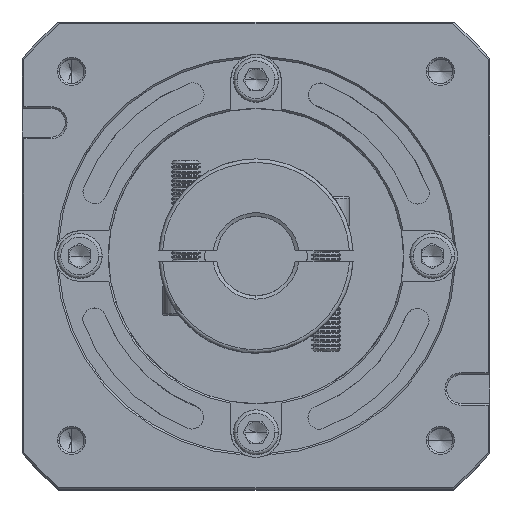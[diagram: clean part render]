
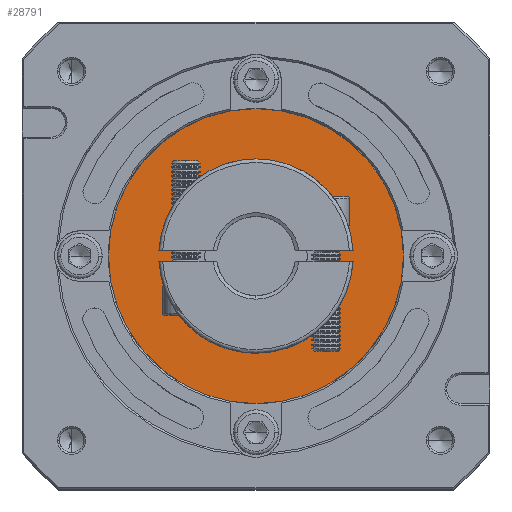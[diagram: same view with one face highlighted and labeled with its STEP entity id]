
A CAD part, top view. The second image highlights one B-rep face of the part: STEP entity #28791.
In plain terms, the highlighted planar face has unit normal (0, 0, 1).
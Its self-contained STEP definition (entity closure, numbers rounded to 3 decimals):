
#644 = CIRCLE ( 'NONE', #5246, 20. ) ;
#4586 = VERTEX_POINT ( 'NONE', #33831 ) ;
#5246 = AXIS2_PLACEMENT_3D ( 'NONE', #47899, #90704, #91464 ) ;
#9698 = ORIENTED_EDGE ( 'NONE', *, *, #65212, .T. ) ;
#11600 = DIRECTION ( 'NONE',  ( 0., 0., 1. ) ) ;
#12256 = VERTEX_POINT ( 'NONE', #68671 ) ;
#13747 = DIRECTION ( 'NONE',  ( 1., 0., 0. ) ) ;
#18558 = CARTESIAN_POINT ( 'NONE',  ( 57.277, 125.912, -40.932 ) ) ;
#23309 = ORIENTED_EDGE ( 'NONE', *, *, #29928, .T. ) ;
#27754 = DIRECTION ( 'NONE',  ( 1., 0., 0. ) ) ;
#28791 = ADVANCED_FACE ( 'NONE', ( #53707, #56436 ), #57829, .T. ) ;
#29928 = EDGE_CURVE ( 'NONE', #58491, #12256, #83555, .T. ) ;
#33831 = CARTESIAN_POINT ( 'NONE',  ( 37.277, 125.912, -40.932 ) ) ;
#36947 = AXIS2_PLACEMENT_3D ( 'NONE', #66031, #90870, #13747 ) ;
#39765 = CIRCLE ( 'NONE', #59681, 20. ) ;
#39838 = DIRECTION ( 'NONE',  ( 1., 0., 0. ) ) ;
#40317 = CIRCLE ( 'NONE', #82640, 41. ) ;
#42201 = DIRECTION ( 'NONE',  ( 1., 0., 0. ) ) ;
#43817 = ORIENTED_EDGE ( 'NONE', *, *, #54583, .T. ) ;
#47220 = CARTESIAN_POINT ( 'NONE',  ( 98.277, 125.912, -40.932 ) ) ;
#47899 = CARTESIAN_POINT ( 'NONE',  ( 57.277, 125.912, -40.932 ) ) ;
#51520 = EDGE_LOOP ( 'NONE', ( #23309, #9698 ) ) ;
#53707 = FACE_OUTER_BOUND ( 'NONE', #51520, .T. ) ;
#54583 = EDGE_CURVE ( 'NONE', #4586, #105592, #644, .T. ) ;
#56436 = FACE_BOUND ( 'NONE', #108749, .T. ) ;
#57829 = PLANE ( 'NONE',  #75603 ) ;
#58491 = VERTEX_POINT ( 'NONE', #47220 ) ;
#59681 = AXIS2_PLACEMENT_3D ( 'NONE', #18558, #89201, #27754 ) ;
#63068 = EDGE_CURVE ( 'NONE', #105592, #4586, #39765, .T. ) ;
#65212 = EDGE_CURVE ( 'NONE', #12256, #58491, #40317, .T. ) ;
#66031 = CARTESIAN_POINT ( 'NONE',  ( 57.277, 125.912, -40.932 ) ) ;
#68671 = CARTESIAN_POINT ( 'NONE',  ( 16.277, 125.912, -40.932 ) ) ;
#73093 = CARTESIAN_POINT ( 'NONE',  ( 57.277, 125.912, -40.932 ) ) ;
#75603 = AXIS2_PLACEMENT_3D ( 'NONE', #103761, #85740, #42201 ) ;
#82640 = AXIS2_PLACEMENT_3D ( 'NONE', #73093, #11600, #39838 ) ;
#83555 = CIRCLE ( 'NONE', #36947, 41. ) ;
#85740 = DIRECTION ( 'NONE',  ( 0., 0., 1. ) ) ;
#86139 = ORIENTED_EDGE ( 'NONE', *, *, #63068, .T. ) ;
#89201 = DIRECTION ( 'NONE',  ( 0., 0., -1. ) ) ;
#90704 = DIRECTION ( 'NONE',  ( 0., 0., -1. ) ) ;
#90870 = DIRECTION ( 'NONE',  ( 0., 0., 1. ) ) ;
#91464 = DIRECTION ( 'NONE',  ( 1., 0., 0. ) ) ;
#102863 = CARTESIAN_POINT ( 'NONE',  ( 77.277, 125.912, -40.932 ) ) ;
#103761 = CARTESIAN_POINT ( 'NONE',  ( 57.277, 125.912, -40.932 ) ) ;
#105592 = VERTEX_POINT ( 'NONE', #102863 ) ;
#108749 = EDGE_LOOP ( 'NONE', ( #86139, #43817 ) ) ;
